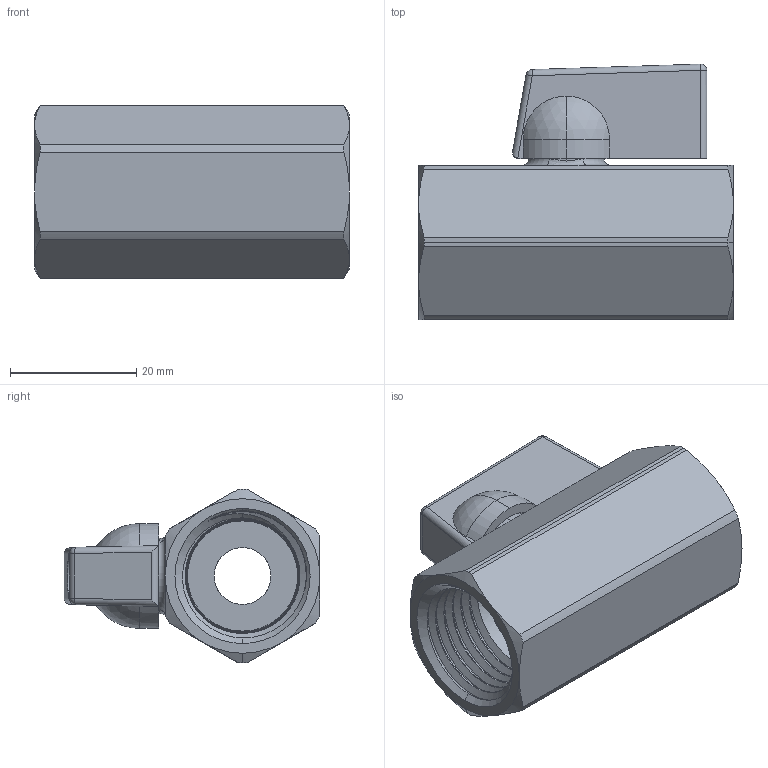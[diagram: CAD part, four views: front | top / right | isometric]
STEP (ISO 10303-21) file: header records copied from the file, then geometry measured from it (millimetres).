
FILE_DESCRIPTION (( 'STEP AP214' ), '1' );
FILE_NAME ('100-433.STEP', '2025-11-06T16:37:51', ( '' ), ( '' ), 'SwSTEP 2.0', 'SolidWorks 2025', '' );
FILE_SCHEMA (( 'AUTOMOTIVE_DESIGN' ));
Length unit declared in the file: inch
Products named in the file (10): 16___2.STEP; O-ring_14.STEP; 1051_____14.STEP; 1084___2.STEP; 31_______14.STEP; 1080___1.STEP; 100-433; 1080.STEP; _____14.STEP; 14_______2.STEP
Assembly tree (11 placements, depth 3):
  100-433
    1080.STEP
      1080___1.STEP
      1051_____14.STEP
      1084___2.STEP
      14_______2.STEP  x2
      16___2.STEP
      31_______14.STEP
      O-ring_14.STEP  x2
      _____14.STEP
Bounding box: 49.9 x 40.52 x 27.5 mm (x, y, z)
Volume: 19321.7 mm3; surface area: 15928.4 mm2
Topology: 10 solids, 10 shells, 354 faces, 878 edges, 553 vertices
Faces by surface type: cylinder 121, plane 88, cone 64, bspline 33, torus 28, sphere 20
Entity records: 28919 total; most frequent: CARTESIAN_POINT 20949, ORIENTED_EDGE 1668, DIRECTION 1568, EDGE_CURVE 834, AXIS2_PLACEMENT_3D 642, VERTEX_POINT 529, EDGE_LOOP 361, ADVANCED_FACE 334
